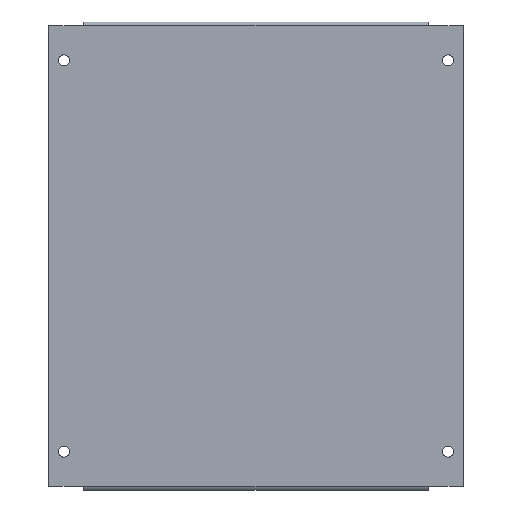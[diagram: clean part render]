
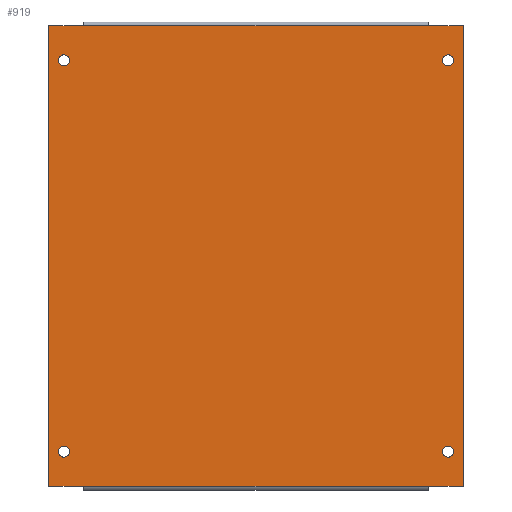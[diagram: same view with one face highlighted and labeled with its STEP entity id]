
A CAD part, top view. The second image highlights one B-rep face of the part: STEP entity #919.
In plain terms, the highlighted planar face has unit normal (0, 0, 1).
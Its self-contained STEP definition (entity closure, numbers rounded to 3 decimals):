
#20 = DIRECTION ( 'NONE',  ( 0., 0., -1. ) ) ;
#21 = VECTOR ( 'NONE', #156, 1000. ) ;
#25 = ORIENTED_EDGE ( 'NONE', *, *, #138, .T. ) ;
#27 = ORIENTED_EDGE ( 'NONE', *, *, #985, .T. ) ;
#32 = VECTOR ( 'NONE', #456, 1000. ) ;
#44 = CARTESIAN_POINT ( 'NONE',  ( -119.25, -125., 1.2 ) ) ;
#48 = DIRECTION ( 'NONE',  ( 0., 0., 1. ) ) ;
#59 = DIRECTION ( 'NONE',  ( 0., 0., 1. ) ) ;
#67 = VERTEX_POINT ( 'NONE', #617 ) ;
#72 = CARTESIAN_POINT ( 'NONE',  ( 132.5, 147.1, 1.2 ) ) ;
#75 = FACE_BOUND ( 'NONE', #568, .T. ) ;
#83 = VERTEX_POINT ( 'NONE', #149 ) ;
#86 = CIRCLE ( 'NONE', #602, 3.5 ) ;
#91 = CARTESIAN_POINT ( 'NONE',  ( 122.75, -125., 1.2 ) ) ;
#93 = EDGE_LOOP ( 'NONE', ( #780, #25 ) ) ;
#100 = LINE ( 'NONE', #217, #32 ) ;
#113 = AXIS2_PLACEMENT_3D ( 'NONE', #91, #561, #647 ) ;
#121 = VERTEX_POINT ( 'NONE', #72 ) ;
#132 = VERTEX_POINT ( 'NONE', #1048 ) ;
#138 = EDGE_CURVE ( 'NONE', #978, #67, #689, .T. ) ;
#142 = CIRCLE ( 'NONE', #947, 3.5 ) ;
#145 = ORIENTED_EDGE ( 'NONE', *, *, #981, .T. ) ;
#148 = CARTESIAN_POINT ( 'NONE',  ( -122.75, -125., 1.2 ) ) ;
#149 = CARTESIAN_POINT ( 'NONE',  ( 126.25, -125., 1.2 ) ) ;
#152 = CARTESIAN_POINT ( 'NONE',  ( -110.2, 147.1, 1.2 ) ) ;
#156 = DIRECTION ( 'NONE',  ( 0., 1., 0. ) ) ;
#157 = ORIENTED_EDGE ( 'NONE', *, *, #838, .T. ) ;
#176 = EDGE_CURVE ( 'NONE', #67, #978, #142, .T. ) ;
#211 = CIRCLE ( 'NONE', #627, 3.5 ) ;
#214 = DIRECTION ( 'NONE',  ( 1., 0., 0. ) ) ;
#217 = CARTESIAN_POINT ( 'NONE',  ( 110.2, 147.1, 1.2 ) ) ;
#226 = EDGE_CURVE ( 'NONE', #83, #557, #211, .T. ) ;
#228 = ORIENTED_EDGE ( 'NONE', *, *, #596, .F. ) ;
#238 = LINE ( 'NONE', #388, #520 ) ;
#247 = CARTESIAN_POINT ( 'NONE',  ( -132.5, -147.1, 1.2 ) ) ;
#252 = DIRECTION ( 'NONE',  ( 1., 0., 0. ) ) ;
#256 = CARTESIAN_POINT ( 'NONE',  ( 132.5, 149.5, 1.2 ) ) ;
#259 = CARTESIAN_POINT ( 'NONE',  ( 119.25, -125., 1.2 ) ) ;
#271 = LINE ( 'NONE', #492, #297 ) ;
#273 = CIRCLE ( 'NONE', #437, 3.5 ) ;
#276 = ORIENTED_EDGE ( 'NONE', *, *, #435, .T. ) ;
#282 = ORIENTED_EDGE ( 'NONE', *, *, #226, .F. ) ;
#283 = FACE_BOUND ( 'NONE', #93, .T. ) ;
#290 = VERTEX_POINT ( 'NONE', #932 ) ;
#294 = CARTESIAN_POINT ( 'NONE',  ( 110.2, -147.1, 1.2 ) ) ;
#297 = VECTOR ( 'NONE', #739, 1000. ) ;
#308 = CARTESIAN_POINT ( 'NONE',  ( -132.5, -149.5, 1.2 ) ) ;
#316 = DIRECTION ( 'NONE',  ( 0., 0., 1. ) ) ;
#323 = ORIENTED_EDGE ( 'NONE', *, *, #558, .F. ) ;
#331 = EDGE_LOOP ( 'NONE', ( #282, #323 ) ) ;
#338 = CIRCLE ( 'NONE', #410, 3.5 ) ;
#344 = CARTESIAN_POINT ( 'NONE',  ( -122.75, 125., 1.2 ) ) ;
#345 = DIRECTION ( 'NONE',  ( 1., 0., 0. ) ) ;
#362 = CARTESIAN_POINT ( 'NONE',  ( 122.75, -125., 1.2 ) ) ;
#385 = VECTOR ( 'NONE', #666, 1000. ) ;
#388 = CARTESIAN_POINT ( 'NONE',  ( -132.5, 149.5, 1.2 ) ) ;
#397 = VERTEX_POINT ( 'NONE', #782 ) ;
#406 = ORIENTED_EDGE ( 'NONE', *, *, #1050, .T. ) ;
#407 = VERTEX_POINT ( 'NONE', #550 ) ;
#410 = AXIS2_PLACEMENT_3D ( 'NONE', #148, #1032, #214 ) ;
#411 = LINE ( 'NONE', #256, #21 ) ;
#417 = VERTEX_POINT ( 'NONE', #152 ) ;
#424 = CARTESIAN_POINT ( 'NONE',  ( 122.75, 125., 1.2 ) ) ;
#430 = DIRECTION ( 'NONE',  ( 0., 0., -1. ) ) ;
#432 = EDGE_LOOP ( 'NONE', ( #157, #648 ) ) ;
#435 = EDGE_CURVE ( 'NONE', #121, #914, #757, .T. ) ;
#437 = AXIS2_PLACEMENT_3D ( 'NONE', #737, #905, #252 ) ;
#440 = LINE ( 'NONE', #841, #385 ) ;
#448 = CARTESIAN_POINT ( 'NONE',  ( 119.25, 125., 1.2 ) ) ;
#456 = DIRECTION ( 'NONE',  ( -1., 0., 0. ) ) ;
#465 = DIRECTION ( 'NONE',  ( 1., 0., 0. ) ) ;
#468 = CIRCLE ( 'NONE', #528, 3.5 ) ;
#478 = EDGE_CURVE ( 'NONE', #848, #290, #911, .T. ) ;
#484 = ORIENTED_EDGE ( 'NONE', *, *, #681, .T. ) ;
#485 = EDGE_CURVE ( 'NONE', #417, #397, #984, .T. ) ;
#489 = VECTOR ( 'NONE', #814, 1000. ) ;
#492 = CARTESIAN_POINT ( 'NONE',  ( -110.2, -147.1, 1.2 ) ) ;
#501 = FACE_BOUND ( 'NONE', #432, .T. ) ;
#502 = DIRECTION ( 'NONE',  ( 1., 0., 0. ) ) ;
#520 = VECTOR ( 'NONE', #545, 1000. ) ;
#528 = AXIS2_PLACEMENT_3D ( 'NONE', #920, #20, #345 ) ;
#532 = CARTESIAN_POINT ( 'NONE',  ( 110.2, 147.1, 1.2 ) ) ;
#541 = ORIENTED_EDGE ( 'NONE', *, *, #478, .T. ) ;
#545 = DIRECTION ( 'NONE',  ( 0., -1., 0. ) ) ;
#550 = CARTESIAN_POINT ( 'NONE',  ( -126.25, 125., 1.2 ) ) ;
#557 = VERTEX_POINT ( 'NONE', #259 ) ;
#558 = EDGE_CURVE ( 'NONE', #557, #83, #792, .T. ) ;
#561 = DIRECTION ( 'NONE',  ( 0., 0., 1. ) ) ;
#568 = EDGE_LOOP ( 'NONE', ( #228, #584 ) ) ;
#582 = EDGE_LOOP ( 'NONE', ( #27, #484, #145, #541, #406, #276, #853, #769 ) ) ;
#584 = ORIENTED_EDGE ( 'NONE', *, *, #1019, .F. ) ;
#596 = EDGE_CURVE ( 'NONE', #132, #407, #273, .T. ) ;
#602 = AXIS2_PLACEMENT_3D ( 'NONE', #344, #316, #653 ) ;
#603 = EDGE_CURVE ( 'NONE', #928, #760, #468, .T. ) ;
#608 = VECTOR ( 'NONE', #641, 1000. ) ;
#617 = CARTESIAN_POINT ( 'NONE',  ( 126.25, 125., 1.2 ) ) ;
#626 = VERTEX_POINT ( 'NONE', #816 ) ;
#627 = AXIS2_PLACEMENT_3D ( 'NONE', #362, #48, #1009 ) ;
#633 = CARTESIAN_POINT ( 'NONE',  ( -132.5, 147.1, 1.2 ) ) ;
#634 = DIRECTION ( 'NONE',  ( 0., 0., -1. ) ) ;
#636 = VECTOR ( 'NONE', #722, 1000. ) ;
#641 = DIRECTION ( 'NONE',  ( 1., 0., 0. ) ) ;
#647 = DIRECTION ( 'NONE',  ( 1., 0., 0. ) ) ;
#648 = ORIENTED_EDGE ( 'NONE', *, *, #603, .T. ) ;
#653 = DIRECTION ( 'NONE',  ( 1., 0., 0. ) ) ;
#666 = DIRECTION ( 'NONE',  ( 1., 0., 0. ) ) ;
#681 = EDGE_CURVE ( 'NONE', #1000, #626, #440, .T. ) ;
#689 = CIRCLE ( 'NONE', #943, 3.5 ) ;
#722 = DIRECTION ( 'NONE',  ( -1., 0., 0. ) ) ;
#737 = CARTESIAN_POINT ( 'NONE',  ( -122.75, 125., 1.2 ) ) ;
#739 = DIRECTION ( 'NONE',  ( 1., 0., 0. ) ) ;
#757 = LINE ( 'NONE', #633, #636 ) ;
#760 = VERTEX_POINT ( 'NONE', #44 ) ;
#769 = ORIENTED_EDGE ( 'NONE', *, *, #485, .T. ) ;
#780 = ORIENTED_EDGE ( 'NONE', *, *, #176, .T. ) ;
#781 = PLANE ( 'NONE',  #893 ) ;
#782 = CARTESIAN_POINT ( 'NONE',  ( -132.5, 147.1, 1.2 ) ) ;
#792 = CIRCLE ( 'NONE', #113, 3.5 ) ;
#814 = DIRECTION ( 'NONE',  ( -1., 0., 0. ) ) ;
#816 = CARTESIAN_POINT ( 'NONE',  ( -110.2, -147.1, 1.2 ) ) ;
#826 = CARTESIAN_POINT ( 'NONE',  ( -132.5, -147.1, 1.2 ) ) ;
#838 = EDGE_CURVE ( 'NONE', #760, #928, #338, .T. ) ;
#841 = CARTESIAN_POINT ( 'NONE',  ( -132.5, -147.1, 1.2 ) ) ;
#848 = VERTEX_POINT ( 'NONE', #294 ) ;
#853 = ORIENTED_EDGE ( 'NONE', *, *, #898, .T. ) ;
#867 = CARTESIAN_POINT ( 'NONE',  ( -126.25, -125., 1.2 ) ) ;
#884 = CARTESIAN_POINT ( 'NONE',  ( 122.75, 125., 1.2 ) ) ;
#892 = CARTESIAN_POINT ( 'NONE',  ( -132.5, 147.1, 1.2 ) ) ;
#893 = AXIS2_PLACEMENT_3D ( 'NONE', #308, #59, #1046 ) ;
#898 = EDGE_CURVE ( 'NONE', #914, #417, #100, .T. ) ;
#905 = DIRECTION ( 'NONE',  ( 0., 0., 1. ) ) ;
#909 = FACE_OUTER_BOUND ( 'NONE', #582, .T. ) ;
#911 = LINE ( 'NONE', #247, #608 ) ;
#914 = VERTEX_POINT ( 'NONE', #532 ) ;
#919 = ADVANCED_FACE ( 'NONE', ( #975, #283, #75, #909, #501 ), #781, .T. ) ;
#920 = CARTESIAN_POINT ( 'NONE',  ( -122.75, -125., 1.2 ) ) ;
#928 = VERTEX_POINT ( 'NONE', #867 ) ;
#932 = CARTESIAN_POINT ( 'NONE',  ( 132.5, -147.1, 1.2 ) ) ;
#943 = AXIS2_PLACEMENT_3D ( 'NONE', #884, #634, #465 ) ;
#947 = AXIS2_PLACEMENT_3D ( 'NONE', #424, #430, #502 ) ;
#975 = FACE_BOUND ( 'NONE', #331, .T. ) ;
#978 = VERTEX_POINT ( 'NONE', #448 ) ;
#981 = EDGE_CURVE ( 'NONE', #626, #848, #271, .T. ) ;
#984 = LINE ( 'NONE', #892, #489 ) ;
#985 = EDGE_CURVE ( 'NONE', #397, #1000, #238, .T. ) ;
#1000 = VERTEX_POINT ( 'NONE', #826 ) ;
#1009 = DIRECTION ( 'NONE',  ( 1., 0., 0. ) ) ;
#1019 = EDGE_CURVE ( 'NONE', #407, #132, #86, .T. ) ;
#1032 = DIRECTION ( 'NONE',  ( 0., 0., -1. ) ) ;
#1046 = DIRECTION ( 'NONE',  ( 1., 0., 0. ) ) ;
#1048 = CARTESIAN_POINT ( 'NONE',  ( -119.25, 125., 1.2 ) ) ;
#1050 = EDGE_CURVE ( 'NONE', #290, #121, #411, .T. ) ;
